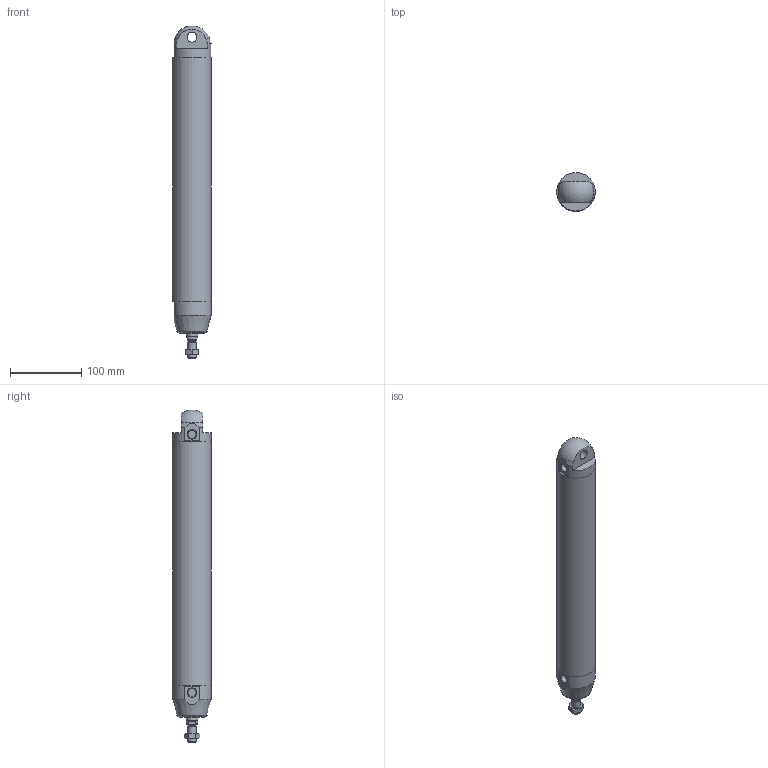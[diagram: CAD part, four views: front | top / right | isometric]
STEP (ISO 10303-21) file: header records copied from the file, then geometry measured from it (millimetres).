
FILE_DESCRIPTION(/* description */ (''),/* implementation_level */ '2;1');
FILE_NAME(/* name */ 'I:\Area Tecnica\Documenti\A-Manieri\_Inventor\12X\12X#A_###_####_#_#\12XAA_050_0300_#_#.stp',/* time_stamp */ '2015-04-22T12:06:12+02:00',/* author */ ('maniean1'),/* organization */ ('Pneumax S.p.A.'),/* preprocessor_version */ 'ST-DEVELOPER v15.2',/* originating_system */ 'Autodesk Inventor 2014',/* authorisation */ '');
FILE_SCHEMA (('AUTOMOTIVE_DESIGN { 1 0 10303 214 3 1 1 }'));
Length unit declared in the file: millimetre
Products named in the file (6): C1250_619-0300; 12X50_613; 12X50_605; S12X50_0300; 12X_50_11; 12XAA_050_0300_#_#
Bounding box: 54 x 54 x 466.83 mm (x, y, z)
Volume: 412483.7 mm3; surface area: 166779 mm2
Topology: 5 solids, 5 shells, 59 faces, 126 edges, 81 vertices
Faces by surface type: plane 31, cylinder 14, cone 12, torus 1, sphere 1
Full cylindrical faces by diameter (mm): 10.2 x1, 11.4 x2, 12 x2, 14 x2, 15.6 x1, 16 x1, 50 x2, 54 x3
Entity records: 1560 total; most frequent: CARTESIAN_POINT 288, DIRECTION 266, ORIENTED_EDGE 196, AXIS2_PLACEMENT_3D 120, EDGE_CURVE 98, EDGE_LOOP 94, VERTEX_POINT 76, ADVANCED_FACE 59
